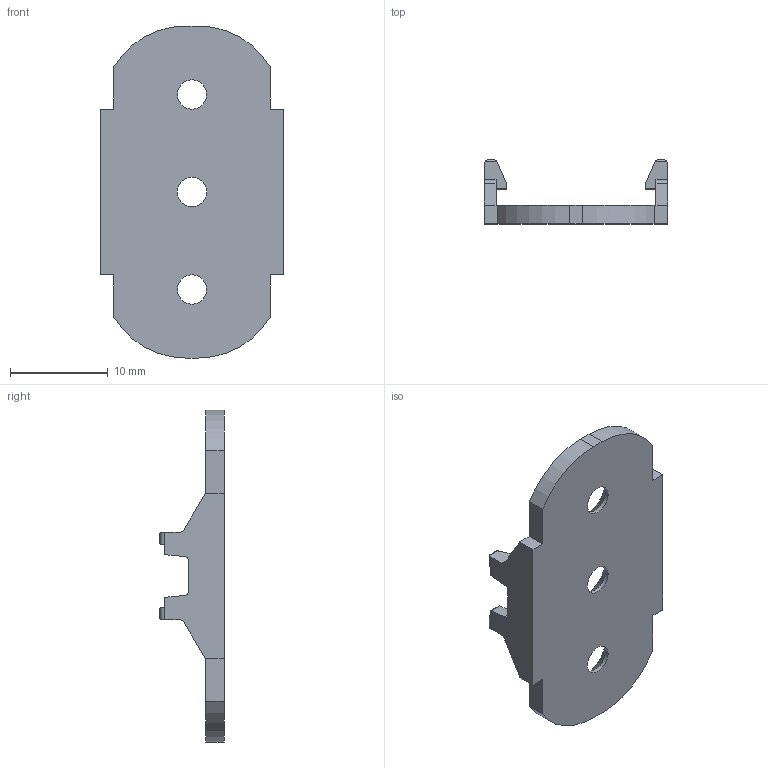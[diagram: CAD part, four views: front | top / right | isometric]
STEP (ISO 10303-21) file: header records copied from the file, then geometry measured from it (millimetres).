
FILE_DESCRIPTION (( 'STEP AP203' ), '1' );
FILE_NAME ('Halfround Clip Flat.STEP', '2026-04-20T14:04:09', ( '' ), ( '' ), 'SwSTEP 2.0', 'SolidWorks 2025', '' );
FILE_SCHEMA (( 'CONFIG_CONTROL_DESIGN' ));
Length unit declared in the file: millimetre
Products named in the file (1): Halfround Clip Flat
Bounding box: 18.8 x 6.6 x 34.05 mm (x, y, z)
Volume: 1076.9 mm3; surface area: 1489 mm2
Topology: 1 solids, 1 shells, 100 faces, 292 edges, 194 vertices
Faces by surface type: plane 54, cylinder 43, cone 3
Full cylindrical faces by diameter (mm): 3 x3
Entity records: 3415 total; most frequent: CARTESIAN_POINT 671, ORIENTED_EDGE 570, DIRECTION 540, EDGE_CURVE 285, VERTEX_POINT 193, VECTOR 192, LINE 192, AXIS2_PLACEMENT_3D 174
